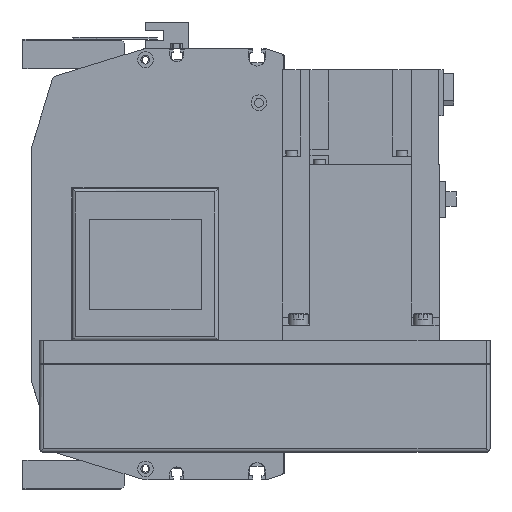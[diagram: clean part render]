
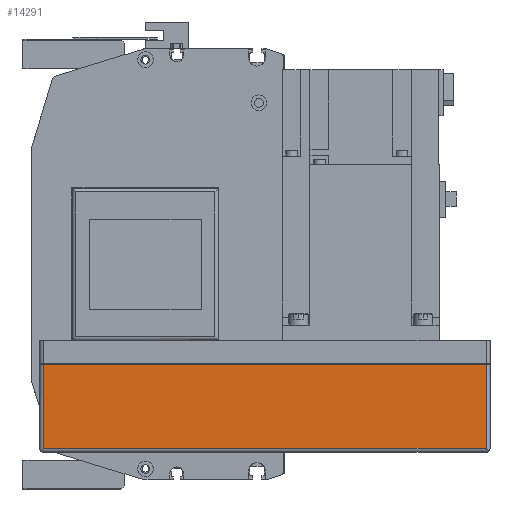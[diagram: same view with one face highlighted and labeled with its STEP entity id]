
A CAD part, left-side view. The second image highlights one B-rep face of the part: STEP entity #14291.
In plain terms, the highlighted planar face has unit normal (-1, 0, 0) as drawn and (0, 1, 0) by its records, which use the part's own axes.
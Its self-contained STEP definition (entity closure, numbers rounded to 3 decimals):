
#2436=ORIENTED_EDGE('',*,*,#5830,.F.);
#2437=ORIENTED_EDGE('',*,*,#5770,.T.);
#2438=ORIENTED_EDGE('',*,*,#5831,.F.);
#2439=ORIENTED_EDGE('',*,*,#5765,.F.);
#5765=EDGE_CURVE('',#7608,#7609,#9086,.T.);
#5770=EDGE_CURVE('',#7614,#7613,#9088,.T.);
#5830=EDGE_CURVE('',#7614,#7608,#9131,.T.);
#5831=EDGE_CURVE('',#7609,#7613,#9132,.T.);
#7608=VERTEX_POINT('',#22223);
#7609=VERTEX_POINT('',#22225);
#7613=VERTEX_POINT('',#22234);
#7614=VERTEX_POINT('',#22236);
#9086=LINE('',#22224,#10429);
#9088=LINE('',#22235,#10431);
#9131=LINE('',#22358,#10474);
#9132=LINE('',#22359,#10475);
#10429=VECTOR('',#17762,1000.);
#10431=VECTOR('',#17772,1000.);
#10474=VECTOR('',#17893,1000.);
#10475=VECTOR('',#17894,1000.);
#11626=EDGE_LOOP('',(#2436,#2437,#2438,#2439));
#12729=FACE_BOUND('',#11626,.T.);
#13670=PLANE('',#15343);
#14291=ADVANCED_FACE('',(#12729),#13670,.T.);
#15343=AXIS2_PLACEMENT_3D('',#22357,#17891,#17892);
#17762=DIRECTION('',(0.,0.,1.));
#17772=DIRECTION('',(0.,0.,1.));
#17891=DIRECTION('',(0.,1.,0.));
#17892=DIRECTION('',(0.,0.,1.));
#17893=DIRECTION('',(1.,0.,0.));
#17894=DIRECTION('',(-1.,0.,0.));
#22223=CARTESIAN_POINT('',(-2.,54.,-55.));
#22224=CARTESIAN_POINT('',(-2.,54.,-57.));
#22225=CARTESIAN_POINT('',(-2.,54.,-12.));
#22234=CARTESIAN_POINT('',(-228.,54.,-12.));
#22235=CARTESIAN_POINT('',(-228.,54.,-57.));
#22236=CARTESIAN_POINT('',(-228.,54.,-55.));
#22357=CARTESIAN_POINT('',(-2.,54.,-57.));
#22358=CARTESIAN_POINT('',(-230.,54.,-55.));
#22359=CARTESIAN_POINT('',(-2.,54.,-12.));
